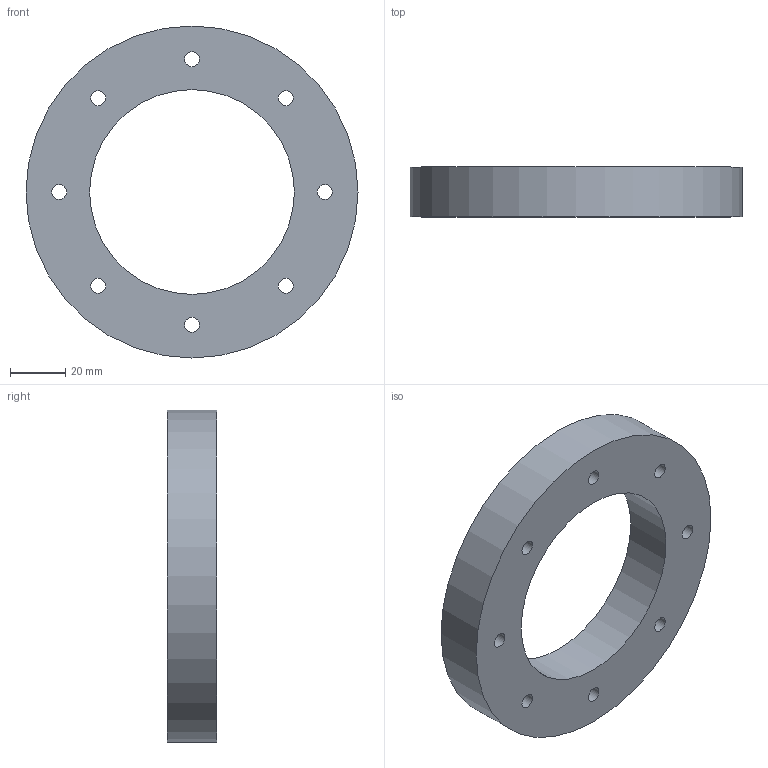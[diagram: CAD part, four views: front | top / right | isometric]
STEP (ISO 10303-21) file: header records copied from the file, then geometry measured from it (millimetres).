
FILE_DESCRIPTION(('Open CASCADE Model'),'2;1');
FILE_NAME('Open CASCADE Shape Model','2026-10-17T16:45:02',('Author'),( 'Open CASCADE'),'Open CASCADE STEP processor 8.0','build123d', 'Unknown');
FILE_SCHEMA(('AUTOMOTIVE_DESIGN { 1 0 10303 214 1 1 1 1 }'));
Length unit declared in the file: millimetre
Products named in the file (1): COMPOUND
Bounding box: 120 x 18 x 120 mm (x, y, z)
Volume: 122862.2 mm3; surface area: 27064.7 mm2
Topology: 1 solids, 1 shells, 12 faces, 30 edges, 20 vertices
Faces by surface type: cylinder 10, plane 2
Full cylindrical faces by diameter (mm): 5.4 x8, 74 x1, 120 x1
Entity records: 810 total; most frequent: DIRECTION 136, CARTESIAN_POINT 123, ORIENTED_EDGE 60, PCURVE 60, DEFINITIONAL_REPRESENTATION 60, LINE 50, VECTOR 50, CIRCLE 40
